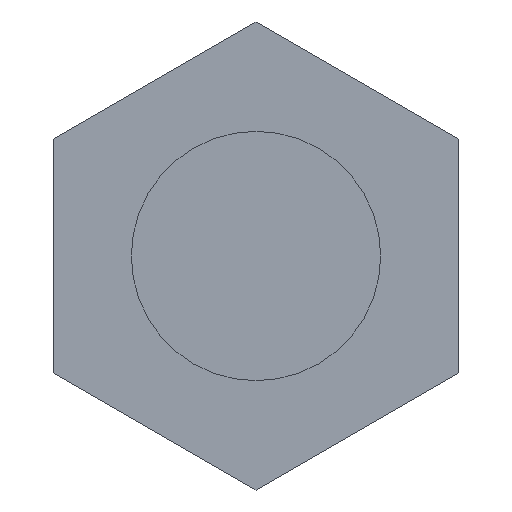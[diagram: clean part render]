
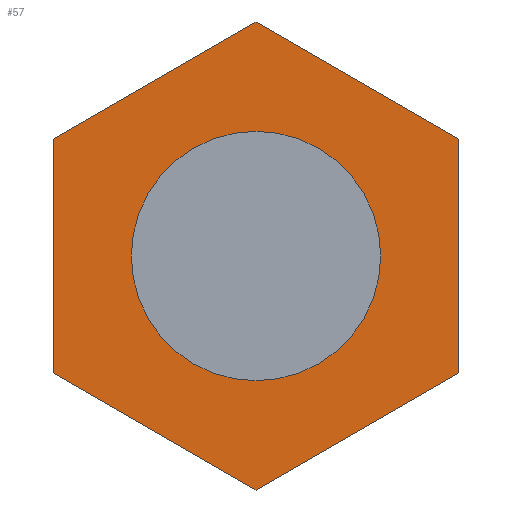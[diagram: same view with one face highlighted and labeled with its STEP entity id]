
A CAD part, left-side view. The second image highlights one B-rep face of the part: STEP entity #57.
In plain terms, the highlighted planar face has unit normal (-1, 0, 0).
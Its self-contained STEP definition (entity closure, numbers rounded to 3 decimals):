
#57=ADVANCED_FACE('',(#105,#107),#109,.F.);
#105=FACE_BOUND('',#106,.T.);
#106=EDGE_LOOP('',(#692,#693,#694,#695,#696,#697));
#107=FACE_BOUND('',#108,.T.);
#108=EDGE_LOOP('',(#698));
#109=PLANE('',#110);
#110=AXIS2_PLACEMENT_3D('',#111,#112,#113);
#111=CARTESIAN_POINT('',(126.,0.,0.));
#112=DIRECTION('',(1.,0.,0.));
#113=DIRECTION('',(0.,1.,0.));
#692=ORIENTED_EDGE('',*,*,#732,.F.);
#693=ORIENTED_EDGE('',*,*,#733,.F.);
#694=ORIENTED_EDGE('',*,*,#734,.F.);
#695=ORIENTED_EDGE('',*,*,#735,.F.);
#696=ORIENTED_EDGE('',*,*,#736,.F.);
#697=ORIENTED_EDGE('',*,*,#737,.F.);
#698=ORIENTED_EDGE('',*,*,#730,.T.);
#730=EDGE_CURVE('',#750,#750,#751,.T.);
#732=EDGE_CURVE('',#754,#755,#756,.T.);
#733=EDGE_CURVE('',#757,#754,#758,.T.);
#734=EDGE_CURVE('',#759,#757,#760,.T.);
#735=EDGE_CURVE('',#761,#759,#762,.T.);
#736=EDGE_CURVE('',#763,#761,#764,.T.);
#737=EDGE_CURVE('',#755,#763,#765,.T.);
#750=VERTEX_POINT('',#784);
#751=CIRCLE('',#785,4.);
#754=VERTEX_POINT('',#794);
#755=VERTEX_POINT('',#795);
#756=LINE('',#796,#797);
#757=VERTEX_POINT('',#799);
#758=LINE('',#800,#801);
#759=VERTEX_POINT('',#803);
#760=LINE('',#804,#805);
#761=VERTEX_POINT('',#807);
#762=LINE('',#808,#809);
#763=VERTEX_POINT('',#811);
#764=LINE('',#812,#813);
#765=LINE('',#815,#816);
#784=CARTESIAN_POINT('',(126.,-40.,4.));
#785=AXIS2_PLACEMENT_3D('',#786,#787,#788);
#786=CARTESIAN_POINT('',(126.,-40.,0.));
#787=DIRECTION('',(1.,0.,0.));
#788=DIRECTION('',(0.,0.,1.));
#794=CARTESIAN_POINT('',(126.,-46.5,-3.753));
#795=CARTESIAN_POINT('',(126.,-40.,-7.506));
#796=CARTESIAN_POINT('',(126.,-46.5,-3.753));
#797=VECTOR('',#798,1.);
#798=DIRECTION('',(0.,0.866,-0.5));
#799=CARTESIAN_POINT('',(126.,-46.5,3.753));
#800=CARTESIAN_POINT('',(126.,-46.5,3.753));
#801=VECTOR('',#802,1.);
#802=DIRECTION('',(0.,0.,-1.));
#803=CARTESIAN_POINT('',(126.,-40.,7.506));
#804=CARTESIAN_POINT('',(126.,-40.,7.506));
#805=VECTOR('',#806,1.);
#806=DIRECTION('',(0.,-0.866,-0.5));
#807=CARTESIAN_POINT('',(126.,-33.5,3.753));
#808=CARTESIAN_POINT('',(126.,-33.5,3.753));
#809=VECTOR('',#810,1.);
#810=DIRECTION('',(0.,-0.866,0.5));
#811=CARTESIAN_POINT('',(126.,-33.5,-3.753));
#812=CARTESIAN_POINT('',(126.,-33.5,-3.753));
#813=VECTOR('',#814,1.);
#814=DIRECTION('',(0.,0.,1.));
#815=CARTESIAN_POINT('',(126.,-40.,-7.506));
#816=VECTOR('',#817,1.);
#817=DIRECTION('',(0.,0.866,0.5));
